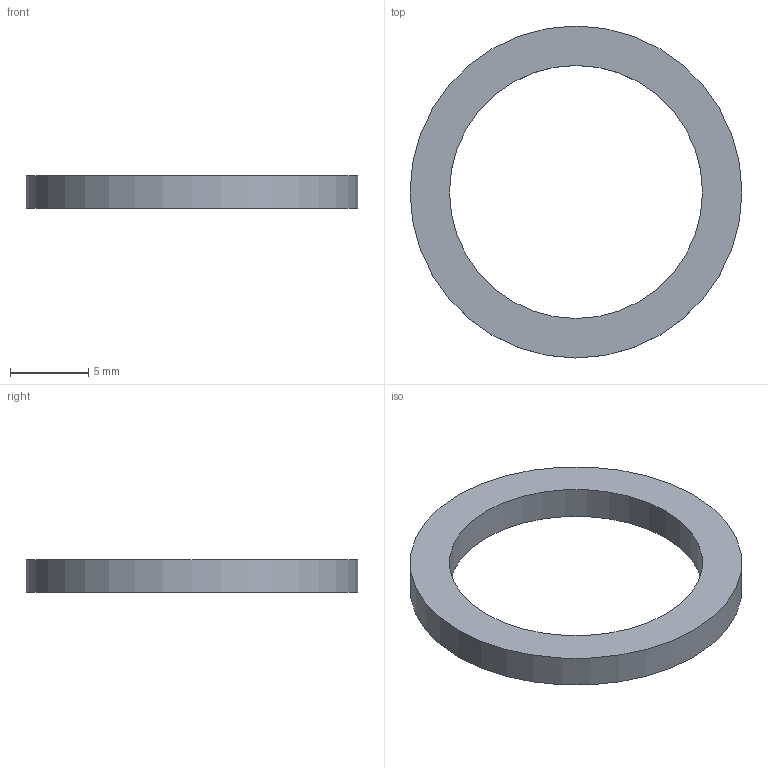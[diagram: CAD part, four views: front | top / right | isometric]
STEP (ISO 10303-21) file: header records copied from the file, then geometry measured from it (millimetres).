
FILE_DESCRIPTION((''),'2;1');
FILE_NAME('W:\13785_CF_Global_Fit_Umsetzung\236_Copper_Gasket_Silver_Plated\M213-461.stp','2010-09-01T15:45:05',('KAA'),(''),'Autodesk Inventor 2011','Autodesk Inventor 2011','');
FILE_SCHEMA(('AUTOMOTIVE_DESIGN { 1 0 10303 214 1 1 1 1 }'));
Length unit declared in the file: millimetre
Products named in the file (1): 213-461
Bounding box: 21.25 x 21.25 x 2.1 mm (x, y, z)
Volume: 311.9 mm3; surface area: 544.1 mm2
Topology: 1 solids, 1 shells, 4 faces, 6 edges, 4 vertices
Faces by surface type: cylinder 2, plane 2
Full cylindrical faces by diameter (mm): 16.2 x1, 21.25 x1
Entity records: 114 total; most frequent: DIRECTION 18, CARTESIAN_POINT 13, AXIS2_PLACEMENT_3D 9, ORIENTED_EDGE 8, EDGE_LOOP 8, VERTEX_POINT 4, CIRCLE 4, EDGE_CURVE 4
